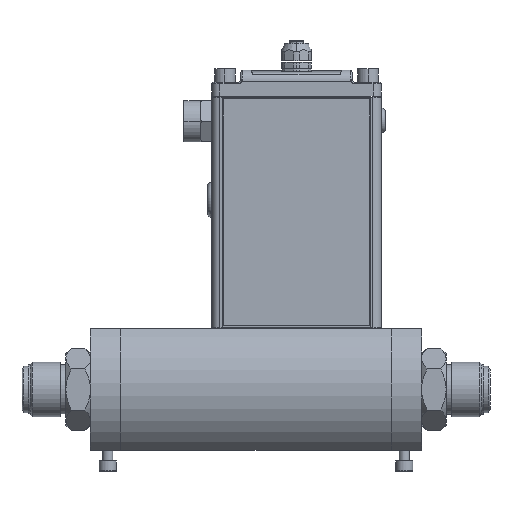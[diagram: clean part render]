
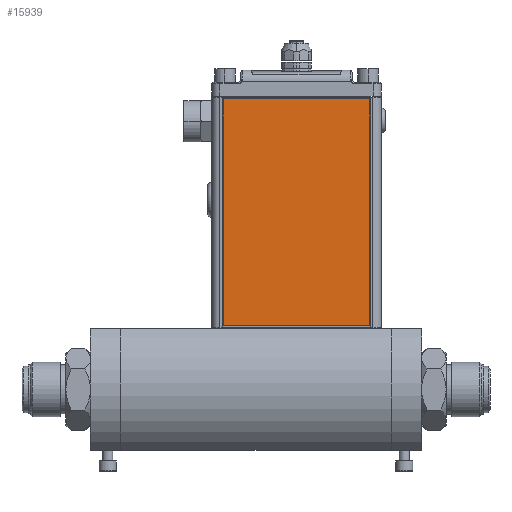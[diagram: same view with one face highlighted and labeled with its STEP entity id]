
A CAD part, front view. The second image highlights one B-rep face of the part: STEP entity #15939.
In plain terms, the highlighted planar face has unit normal (0, -1, 0).
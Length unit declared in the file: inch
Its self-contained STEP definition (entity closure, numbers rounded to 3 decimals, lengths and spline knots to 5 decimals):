
#979 = CARTESIAN_POINT ( 'NONE',  ( 1.27678, -0.25061, 1.07514 ) ) ;
#1022 = CARTESIAN_POINT ( 'NONE',  ( -0.38822, -0.25061, 1.07514 ) ) ;
#1316 = ORIENTED_EDGE ( 'NONE', *, *, #12014, .T. ) ;
#1670 = VECTOR ( 'NONE', #12514, 39.37008 ) ;
#2431 = FACE_OUTER_BOUND ( 'NONE', #9707, .T. ) ;
#2893 = AXIS2_PLACEMENT_3D ( 'NONE', #8022, #18434, #9584 ) ;
#2984 = ORIENTED_EDGE ( 'NONE', *, *, #4416, .T. ) ;
#3594 = EDGE_CURVE ( 'NONE', #9950, #10098, #17181, .T. ) ;
#4416 = EDGE_CURVE ( 'NONE', #18297, #17962, #8122, .T. ) ;
#4495 = LINE ( 'NONE', #16974, #11905 ) ;
#6044 = CARTESIAN_POINT ( 'NONE',  ( -0.38822, -0.25061, 6.24514 ) ) ;
#7199 = VECTOR ( 'NONE', #9825, 39.37008 ) ;
#8022 = CARTESIAN_POINT ( 'NONE',  ( 1.27678, -0.25061, 1.07514 ) ) ;
#8122 = LINE ( 'NONE', #18509, #1670 ) ;
#8635 = CARTESIAN_POINT ( 'NONE',  ( 2.94178, -0.25061, 1.07514 ) ) ;
#8863 = VECTOR ( 'NONE', #18708, 39.37008 ) ;
#9584 = DIRECTION ( 'NONE',  ( 0., 0., -1. ) ) ;
#9707 = EDGE_LOOP ( 'NONE', ( #2984, #11738, #13220, #1316 ) ) ;
#9825 = DIRECTION ( 'NONE',  ( 1., 0., 0. ) ) ;
#9950 = VERTEX_POINT ( 'NONE', #14524 ) ;
#10098 = VERTEX_POINT ( 'NONE', #6044 ) ;
#10661 = CARTESIAN_POINT ( 'NONE',  ( 2.94178, -0.25061, 6.24514 ) ) ;
#11738 = ORIENTED_EDGE ( 'NONE', *, *, #16555, .T. ) ;
#11905 = VECTOR ( 'NONE', #18463, 39.37008 ) ;
#12014 = EDGE_CURVE ( 'NONE', #9950, #18297, #15087, .T. ) ;
#12514 = DIRECTION ( 'NONE',  ( 0., 0., 1. ) ) ;
#13220 = ORIENTED_EDGE ( 'NONE', *, *, #3594, .F. ) ;
#14524 = CARTESIAN_POINT ( 'NONE',  ( -0.38822, -0.25061, 1.07514 ) ) ;
#15087 = LINE ( 'NONE', #979, #7199 ) ;
#15464 = PLANE ( 'NONE',  #2893 ) ;
#15939 = ADVANCED_FACE ( 'NONE', ( #2431 ), #15464, .T. ) ;
#16555 = EDGE_CURVE ( 'NONE', #17962, #10098, #4495, .T. ) ;
#16974 = CARTESIAN_POINT ( 'NONE',  ( 1.27678, -0.25061, 6.24514 ) ) ;
#17181 = LINE ( 'NONE', #1022, #8863 ) ;
#17962 = VERTEX_POINT ( 'NONE', #10661 ) ;
#18297 = VERTEX_POINT ( 'NONE', #8635 ) ;
#18434 = DIRECTION ( 'NONE',  ( 0., -1., 0. ) ) ;
#18463 = DIRECTION ( 'NONE',  ( -1., 0., 0. ) ) ;
#18509 = CARTESIAN_POINT ( 'NONE',  ( 2.94178, -0.25061, 1.07514 ) ) ;
#18708 = DIRECTION ( 'NONE',  ( 0., 0., 1. ) ) ;
